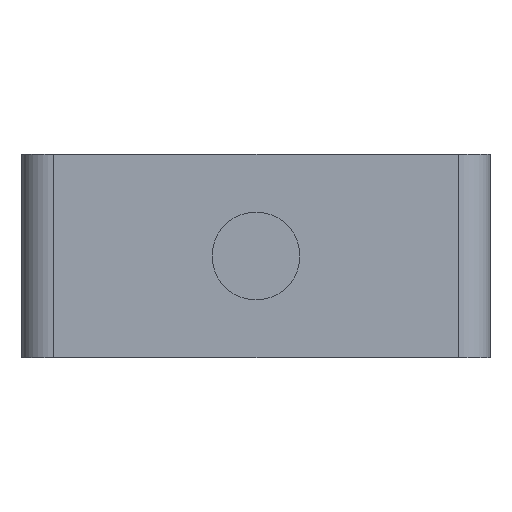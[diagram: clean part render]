
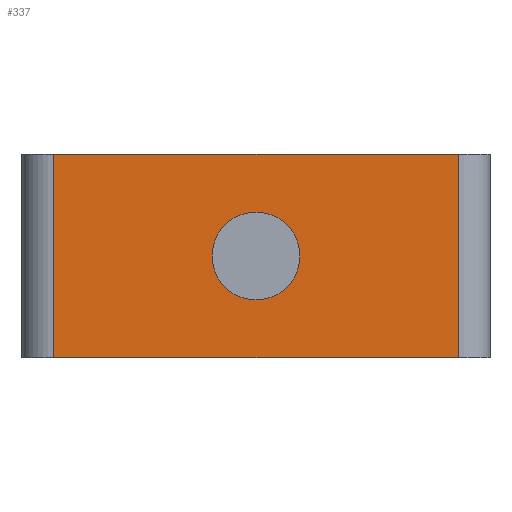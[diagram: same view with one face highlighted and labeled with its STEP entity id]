
A CAD part, left-side view. The second image highlights one B-rep face of the part: STEP entity #337.
In plain terms, the highlighted planar face has unit normal (-1, 0, 0).
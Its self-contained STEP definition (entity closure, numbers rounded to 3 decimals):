
#17=FACE_BOUND('',#69,.T.);
#30=PLANE('',#379);
#48=FACE_OUTER_BOUND('',#68,.T.);
#68=EDGE_LOOP('',(#310,#311,#312,#313));
#69=EDGE_LOOP('',(#314));
#70=LINE('',#479,#105);
#75=LINE('',#491,#110);
#82=LINE('',#507,#117);
#104=LINE('',#565,#139);
#105=VECTOR('',#386,10.);
#110=VECTOR('',#397,10.);
#117=VECTOR('',#408,10.);
#139=VECTOR('',#470,10.);
#144=CIRCLE('',#362,4.15);
#151=VERTEX_POINT('',#476);
#152=VERTEX_POINT('',#478);
#156=VERTEX_POINT('',#490);
#163=VERTEX_POINT('',#506);
#166=VERTEX_POINT('',#516);
#181=EDGE_CURVE('',#151,#152,#70,.T.);
#187=EDGE_CURVE('',#156,#152,#75,.T.);
#195=EDGE_CURVE('',#156,#163,#82,.T.);
#200=EDGE_CURVE('',#166,#166,#144,.T.);
#224=EDGE_CURVE('',#151,#163,#104,.T.);
#310=ORIENTED_EDGE('',*,*,#181,.F.);
#311=ORIENTED_EDGE('',*,*,#224,.T.);
#312=ORIENTED_EDGE('',*,*,#195,.F.);
#313=ORIENTED_EDGE('',*,*,#187,.T.);
#314=ORIENTED_EDGE('',*,*,#200,.T.);
#337=ADVANCED_FACE('',(#48,#17),#30,.F.);
#362=AXIS2_PLACEMENT_3D('',#517,#418,#419);
#379=AXIS2_PLACEMENT_3D('',#566,#471,#472);
#386=DIRECTION('',(0.,0.,1.));
#397=DIRECTION('',(0.,1.,0.));
#408=DIRECTION('',(0.,0.,-1.));
#418=DIRECTION('center_axis',(1.,0.,0.));
#419=DIRECTION('ref_axis',(0.,-1.,0.));
#470=DIRECTION('',(0.,-1.,0.));
#471=DIRECTION('center_axis',(1.,0.,0.));
#472=DIRECTION('ref_axis',(0.,1.,0.));
#476=CARTESIAN_POINT('',(4.,19.1,-9.6));
#478=CARTESIAN_POINT('',(4.,19.1,9.6));
#479=CARTESIAN_POINT('',(4.,19.1,-4.8));
#490=CARTESIAN_POINT('',(4.,-19.1,9.6));
#491=CARTESIAN_POINT('',(4.,-22.1,9.6));
#506=CARTESIAN_POINT('',(4.,-19.1,-9.6));
#507=CARTESIAN_POINT('',(4.,-19.1,4.8));
#516=CARTESIAN_POINT('',(4.,4.15,0.));
#517=CARTESIAN_POINT('Origin',(4.,0.,0.));
#565=CARTESIAN_POINT('',(4.,22.1,-9.6));
#566=CARTESIAN_POINT('Origin',(4.,0.,0.));
